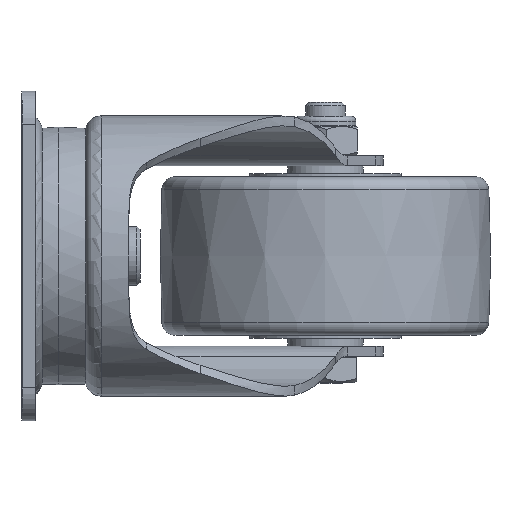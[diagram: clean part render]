
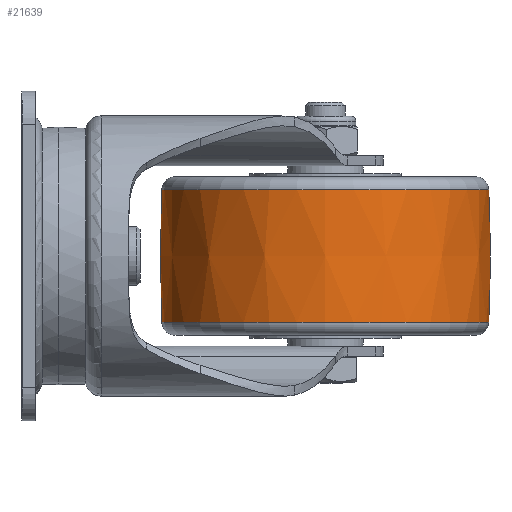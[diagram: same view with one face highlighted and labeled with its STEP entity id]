
A CAD part, left-side view. The second image highlights one B-rep face of the part: STEP entity #21639.
In plain terms, the highlighted free-form (B-spline) face has degree [2, 2] with [3, 9] control points.
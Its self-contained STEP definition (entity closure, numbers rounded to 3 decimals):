
#15=(
BOUNDED_SURFACE()
B_SPLINE_SURFACE(2,2,((#39201,#39202,#39203,#39204,#39205,#39206,#39207,
#39208,#39209),(#39210,#39211,#39212,#39213,#39214,#39215,#39216,#39217,
#39218),(#39219,#39220,#39221,#39222,#39223,#39224,#39225,#39226,#39227)),
 .UNSPECIFIED.,.F.,.T.,.F.)
B_SPLINE_SURFACE_WITH_KNOTS((3,3),(3,2,2,2,3),(-0.04,0.04),
(-3.142,-1.571,0.,1.571,3.142),
 .UNSPECIFIED.)
GEOMETRIC_REPRESENTATION_ITEM()
RATIONAL_B_SPLINE_SURFACE(((1.,0.707,1.,0.707,1.,
0.707,1.,0.707,1.),(0.999,0.707,
0.999,0.707,0.999,0.707,
0.999,0.707,0.999),(1.,0.707,
1.,0.707,1.,0.707,1.,0.707,1.)))
REPRESENTATION_ITEM('')
SURFACE()
);
#5774=FACE_OUTER_BOUND('',#7071,.T.);
#7071=EDGE_LOOP('',(#19976,#19977,#19978,#19979));
#7427=CIRCLE('',#22767,49.593);
#7429=CIRCLE('',#22769,49.593);
#7430=CIRCLE('',#22770,500.);
#10465=VERTEX_POINT('',#39198);
#10466=VERTEX_POINT('',#39228);
#13639=EDGE_CURVE('',#10465,#10465,#7427,.T.);
#13641=EDGE_CURVE('',#10466,#10466,#7429,.T.);
#13642=EDGE_CURVE('',#10466,#10465,#7430,.T.);
#19976=ORIENTED_EDGE('',*,*,#13641,.F.);
#19977=ORIENTED_EDGE('',*,*,#13642,.T.);
#19978=ORIENTED_EDGE('',*,*,#13639,.T.);
#19979=ORIENTED_EDGE('',*,*,#13642,.F.);
#21639=ADVANCED_FACE('',(#5774),#15,.F.);
#22767=AXIS2_PLACEMENT_3D('',#39199,#26825,#26826);
#22769=AXIS2_PLACEMENT_3D('',#39229,#26829,#26830);
#22770=AXIS2_PLACEMENT_3D('',#39230,#26831,#26832);
#26825=DIRECTION('center_axis',(0.,0.,
-1.));
#26826=DIRECTION('ref_axis',(0.,1.,0.));
#26829=DIRECTION('center_axis',(0.,0.,
-1.));
#26830=DIRECTION('ref_axis',(0.,1.,0.));
#26831=DIRECTION('center_axis',(-1.,0.,0.));
#26832=DIRECTION('ref_axis',(0.,-1.,0.));
#39198=CARTESIAN_POINT('',(57.5,-141.595,20.161));
#39199=CARTESIAN_POINT('Origin',(57.5,-92.001,20.161));
#39201=CARTESIAN_POINT('Ctrl Pts',(57.5,-141.595,20.161));
#39202=CARTESIAN_POINT('Ctrl Pts',(7.907,-141.595,20.161));
#39203=CARTESIAN_POINT('Ctrl Pts',(7.907,-92.001,20.161));
#39204=CARTESIAN_POINT('Ctrl Pts',(7.907,-42.408,20.161));
#39205=CARTESIAN_POINT('Ctrl Pts',(57.5,-42.408,20.161));
#39206=CARTESIAN_POINT('Ctrl Pts',(107.093,-42.408,20.161));
#39207=CARTESIAN_POINT('Ctrl Pts',(107.093,-92.001,20.161));
#39208=CARTESIAN_POINT('Ctrl Pts',(107.093,-141.595,20.161));
#39209=CARTESIAN_POINT('Ctrl Pts',(57.5,-141.595,20.161));
#39210=CARTESIAN_POINT('Ctrl Pts',(57.5,-142.408,0.));
#39211=CARTESIAN_POINT('Ctrl Pts',(7.093,-142.408,0.));
#39212=CARTESIAN_POINT('Ctrl Pts',(7.093,-92.001,0.));
#39213=CARTESIAN_POINT('Ctrl Pts',(7.093,-41.594,0.));
#39214=CARTESIAN_POINT('Ctrl Pts',(57.5,-41.594,0.));
#39215=CARTESIAN_POINT('Ctrl Pts',(107.907,-41.594,0.));
#39216=CARTESIAN_POINT('Ctrl Pts',(107.907,-92.001,0.));
#39217=CARTESIAN_POINT('Ctrl Pts',(107.907,-142.408,0.));
#39218=CARTESIAN_POINT('Ctrl Pts',(57.5,-142.408,0.));
#39219=CARTESIAN_POINT('Ctrl Pts',(57.5,-141.595,-20.161));
#39220=CARTESIAN_POINT('Ctrl Pts',(7.907,-141.595,-20.161));
#39221=CARTESIAN_POINT('Ctrl Pts',(7.907,-92.001,-20.161));
#39222=CARTESIAN_POINT('Ctrl Pts',(7.907,-42.408,-20.161));
#39223=CARTESIAN_POINT('Ctrl Pts',(57.5,-42.408,-20.161));
#39224=CARTESIAN_POINT('Ctrl Pts',(107.093,-42.408,-20.161));
#39225=CARTESIAN_POINT('Ctrl Pts',(107.093,-92.001,-20.161));
#39226=CARTESIAN_POINT('Ctrl Pts',(107.093,-141.595,-20.161));
#39227=CARTESIAN_POINT('Ctrl Pts',(57.5,-141.595,-20.161));
#39228=CARTESIAN_POINT('',(57.5,-141.595,-20.161));
#39229=CARTESIAN_POINT('Origin',(57.5,-92.001,-20.161));
#39230=CARTESIAN_POINT('Origin',(57.5,357.999,0.));
